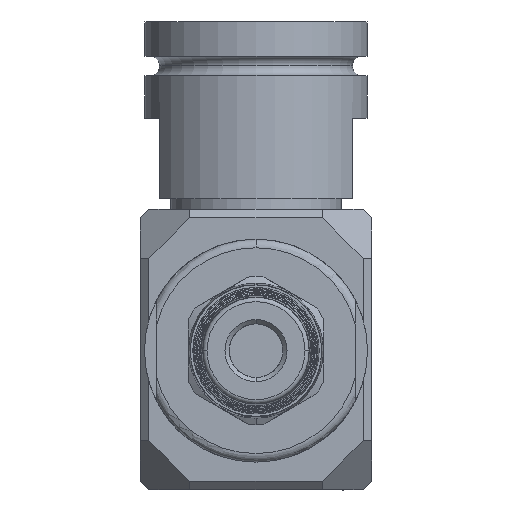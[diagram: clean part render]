
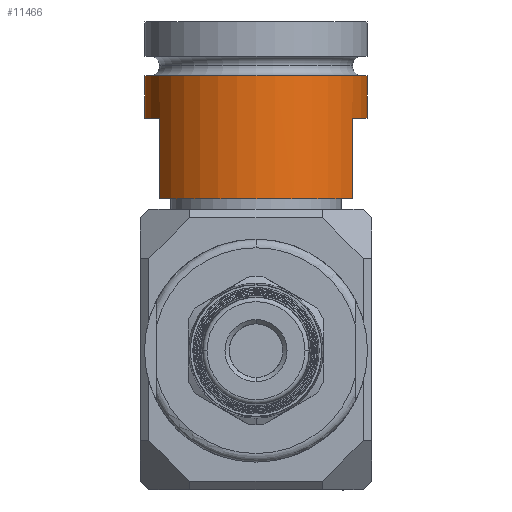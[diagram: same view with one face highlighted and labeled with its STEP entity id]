
A CAD part, front view. The second image highlights one B-rep face of the part: STEP entity #11466.
In plain terms, the highlighted cylindrical face has radius 13.208 mm (diameter 26.416 mm), a partial arc.
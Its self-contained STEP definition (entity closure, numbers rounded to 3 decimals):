
#25 = LINE ( 'NONE', #1227, #14131 ) ;
#127 = CARTESIAN_POINT ( 'NONE',  ( 11.43, -6.619, -2.972 ) ) ;
#213 = DIRECTION ( 'NONE',  ( 1., 0., 0. ) ) ;
#255 = CIRCLE ( 'NONE', #14706, 13.208 ) ;
#786 = AXIS2_PLACEMENT_3D ( 'NONE', #7380, #12211, #6398 ) ;
#807 = CARTESIAN_POINT ( 'NONE',  ( -11.43, -6.619, -12.497 ) ) ;
#892 = DIRECTION ( 'NONE',  ( 0., 0., -1. ) ) ;
#1122 = CARTESIAN_POINT ( 'NONE',  ( 0., 0., -12.497 ) ) ;
#1227 = CARTESIAN_POINT ( 'NONE',  ( 13.208, 0., 8.458 ) ) ;
#1506 = CARTESIAN_POINT ( 'NONE',  ( 11.43, -6.619, -2.972 ) ) ;
#2210 = DIRECTION ( 'NONE',  ( 0., 0., -1. ) ) ;
#2425 = LINE ( 'NONE', #3689, #5749 ) ;
#2500 = DIRECTION ( 'NONE',  ( 0., 0., -1. ) ) ;
#2521 = LINE ( 'NONE', #127, #6131 ) ;
#2646 = CARTESIAN_POINT ( 'NONE',  ( 13.208, 0., 2.108 ) ) ;
#3416 = VERTEX_POINT ( 'NONE', #5848 ) ;
#3689 = CARTESIAN_POINT ( 'NONE',  ( -13.208, 0., 8.458 ) ) ;
#4207 = EDGE_CURVE ( 'NONE', #12345, #8705, #6520, .T. ) ;
#4381 = ORIENTED_EDGE ( 'NONE', *, *, #15557, .F. ) ;
#4385 = CARTESIAN_POINT ( 'NONE',  ( -11.43, -6.619, -2.972 ) ) ;
#4603 = VERTEX_POINT ( 'NONE', #9241 ) ;
#4824 = AXIS2_PLACEMENT_3D ( 'NONE', #13546, #8697, #213 ) ;
#4856 = ORIENTED_EDGE ( 'NONE', *, *, #8199, .T. ) ;
#4912 = CYLINDRICAL_SURFACE ( 'NONE', #786, 13.208 ) ;
#5749 = VECTOR ( 'NONE', #7342, 1000. ) ;
#5848 = CARTESIAN_POINT ( 'NONE',  ( 13.208, 0., -2.972 ) ) ;
#6107 = FACE_OUTER_BOUND ( 'NONE', #10364, .T. ) ;
#6131 = VECTOR ( 'NONE', #2210, 1000. ) ;
#6398 = DIRECTION ( 'NONE',  ( 1., 0., 0. ) ) ;
#6520 = CIRCLE ( 'NONE', #7298, 13.208 ) ;
#6765 = DIRECTION ( 'NONE',  ( 0., 0., -1. ) ) ;
#6792 = CARTESIAN_POINT ( 'NONE',  ( 0., 0., -2.972 ) ) ;
#6912 = ORIENTED_EDGE ( 'NONE', *, *, #7145, .F. ) ;
#6992 = DIRECTION ( 'NONE',  ( 1., 0., 0. ) ) ;
#7145 = EDGE_CURVE ( 'NONE', #3416, #14462, #11399, .T. ) ;
#7164 = CARTESIAN_POINT ( 'NONE',  ( 0., 0., 2.108 ) ) ;
#7298 = AXIS2_PLACEMENT_3D ( 'NONE', #1122, #9605, #14448 ) ;
#7315 = ORIENTED_EDGE ( 'NONE', *, *, #13817, .F. ) ;
#7342 = DIRECTION ( 'NONE',  ( 0., 0., -1. ) ) ;
#7380 = CARTESIAN_POINT ( 'NONE',  ( 0., 0., 8.458 ) ) ;
#8051 = CIRCLE ( 'NONE', #8544, 13.208 ) ;
#8199 = EDGE_CURVE ( 'NONE', #15437, #8705, #10564, .T. ) ;
#8531 = DIRECTION ( 'NONE',  ( -1., 0., 0. ) ) ;
#8544 = AXIS2_PLACEMENT_3D ( 'NONE', #7164, #892, #6992 ) ;
#8697 = DIRECTION ( 'NONE',  ( 0., 0., -1. ) ) ;
#8705 = VERTEX_POINT ( 'NONE', #807 ) ;
#8834 = EDGE_CURVE ( 'NONE', #10540, #4603, #8051, .T. ) ;
#9241 = CARTESIAN_POINT ( 'NONE',  ( -13.208, 0., 2.108 ) ) ;
#9258 = ORIENTED_EDGE ( 'NONE', *, *, #8834, .T. ) ;
#9605 = DIRECTION ( 'NONE',  ( 0., 0., -1. ) ) ;
#9993 = CARTESIAN_POINT ( 'NONE',  ( 11.43, -6.619, -12.497 ) ) ;
#10364 = EDGE_LOOP ( 'NONE', ( #9258, #14667, #14723, #4856, #10455, #7315, #6912, #4381 ) ) ;
#10455 = ORIENTED_EDGE ( 'NONE', *, *, #4207, .F. ) ;
#10478 = EDGE_CURVE ( 'NONE', #4603, #12031, #2425, .T. ) ;
#10540 = VERTEX_POINT ( 'NONE', #2646 ) ;
#10564 = LINE ( 'NONE', #4385, #10984 ) ;
#10723 = CARTESIAN_POINT ( 'NONE',  ( -13.208, 0., -2.972 ) ) ;
#10984 = VECTOR ( 'NONE', #6765, 1000. ) ;
#11399 = CIRCLE ( 'NONE', #4824, 13.208 ) ;
#11466 = ADVANCED_FACE ( 'NONE', ( #6107 ), #4912, .T. ) ;
#11631 = DIRECTION ( 'NONE',  ( 0., 0., -1. ) ) ;
#11778 = CARTESIAN_POINT ( 'NONE',  ( -11.43, -6.619, -2.972 ) ) ;
#12031 = VERTEX_POINT ( 'NONE', #10723 ) ;
#12211 = DIRECTION ( 'NONE',  ( 0., 0., -1. ) ) ;
#12345 = VERTEX_POINT ( 'NONE', #9993 ) ;
#13546 = CARTESIAN_POINT ( 'NONE',  ( 0., 0., -2.972 ) ) ;
#13714 = EDGE_CURVE ( 'NONE', #15437, #12031, #255, .T. ) ;
#13817 = EDGE_CURVE ( 'NONE', #14462, #12345, #2521, .T. ) ;
#14131 = VECTOR ( 'NONE', #2500, 1000. ) ;
#14448 = DIRECTION ( 'NONE',  ( 1., 0., 0. ) ) ;
#14462 = VERTEX_POINT ( 'NONE', #1506 ) ;
#14667 = ORIENTED_EDGE ( 'NONE', *, *, #10478, .T. ) ;
#14706 = AXIS2_PLACEMENT_3D ( 'NONE', #6792, #11631, #8531 ) ;
#14723 = ORIENTED_EDGE ( 'NONE', *, *, #13714, .F. ) ;
#15437 = VERTEX_POINT ( 'NONE', #11778 ) ;
#15557 = EDGE_CURVE ( 'NONE', #10540, #3416, #25, .T. ) ;
